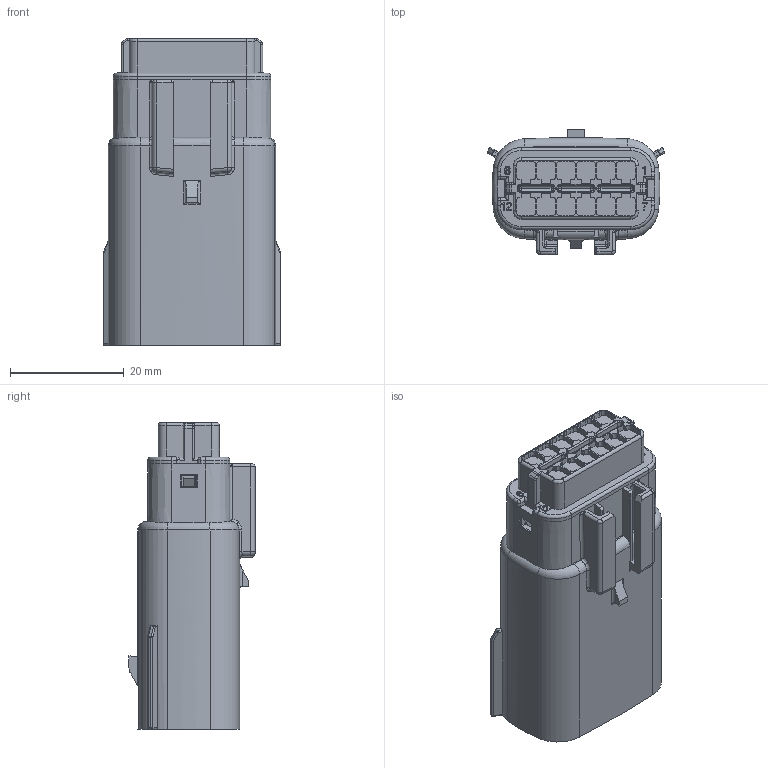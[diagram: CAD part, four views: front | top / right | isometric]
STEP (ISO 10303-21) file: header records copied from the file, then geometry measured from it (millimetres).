
FILE_DESCRIPTION((''),'2;1');
FILE_NAME('334826201','2017-03-01T',('ghp'),(''),'PRO/ENGINEER BY PARAMETRIC TECHNOLOGY CORPORATION, 2012310','PRO/ENGINEER BY PARAMETRIC TECHNOLOGY CORPORATION, 2012310','');
FILE_SCHEMA(('CONFIG_CONTROL_DESIGN'));
Length unit declared in the file: millimetre
Products named in the file (1): 334826201
Bounding box: 31.23 x 22.12 x 53.85 mm (x, y, z)
Volume: 14877.7 mm3; surface area: 9790.2 mm2
Topology: 1 solids, 1 shells, 1073 faces, 2875 edges, 1826 vertices
Faces by surface type: plane 588, cylinder 261, bspline 69, extrusion 60, sphere 36, torus 33, cone 26
Entity records: 41955 total; most frequent: CARTESIAN_POINT 15867, ORIENTED_EDGE 5702, DIRECTION 4925, EDGE_CURVE 2851, VECTOR 1949, LINE 1889, VERTEX_POINT 1826, AXIS2_PLACEMENT_3D 1488
